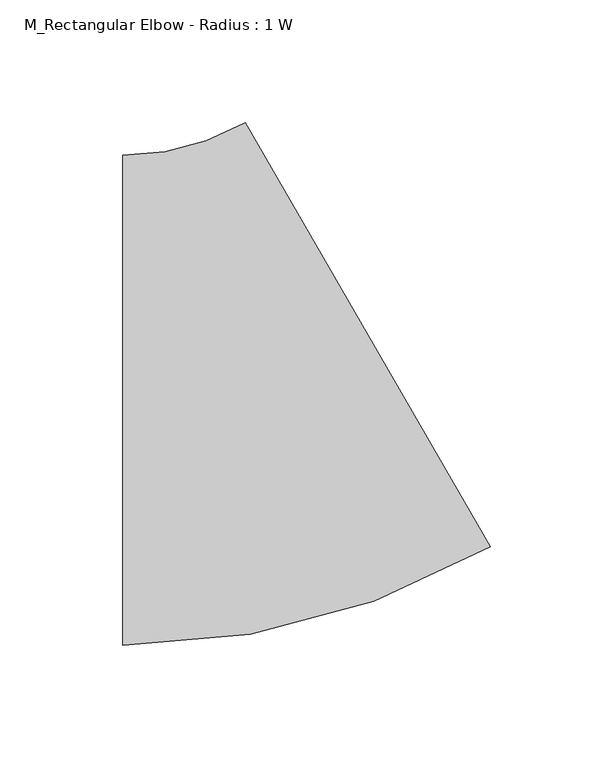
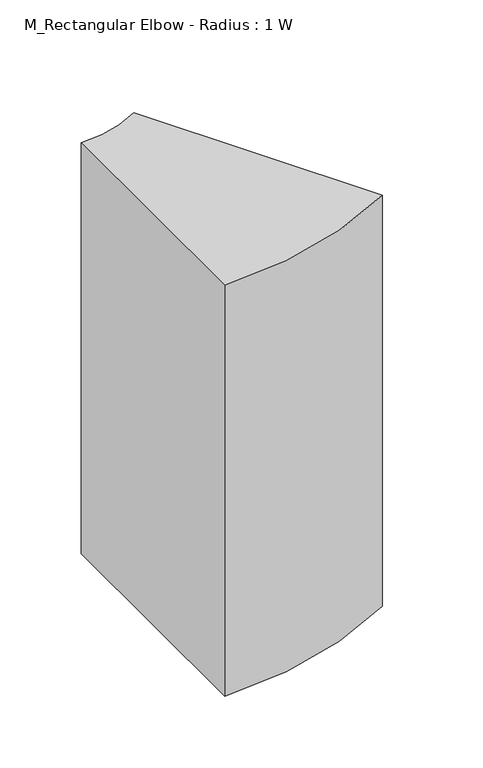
"""IFC4 building model written with IfcOpenShell, lengths in millimetres: duct fitting geometry, M_Rectangular Elbow - Radius : 1 W."""

from ifc_helpers import new_model, si_unit, point, frame, frame_2d, origin, place, context, project, spatial, polyline, circle_curve, trimmed, segment, composite_curve, outline, extrude, source, transform, mapped, element, save


def m_rectangular_elbow_radius_1_w_f31efba9(model_context):
    return source(origin(), model_context, "Body", "SweptSolid", [
        extrude(outline(composite_curve([segment(trimmed(circle_curve(frame_2d((-53.5898309, 200.0)), 300.0), [point((96.4101507, -59.8076317))], [point((-53.5898309, -100.0))], False, "CARTESIAN"), True, "CONTINUOUS"), segment(polyline([(-53.5898309, -100.0), (-53.5898309, 100.0)]), True, "CONTINUOUS"), segment(trimmed(circle_curve(frame_2d((-53.5898309, 200.0)), 100.0), [point((-53.5898309, 100.0))], [point((-3.589837, 113.3974561))], True, "CARTESIAN"), True, "CONTINUOUS"), segment(polyline([(-3.589837, 113.3974561), (96.4101507, -59.8076317)]), True, "CONTINUOUS")], self_intersect=False)), frame((0.0, 0.0, -175.0), z_axis=(0.0, 0.0, 1.0), x_axis=(1.0, 0.0, 0.0)), (0.0, 0.0, 1.0), 350.0),
    ])


if __name__ == "__main__":
    model = new_model("IFC4")
    model_context = context("Model", 3, world=origin())
    ifc_project = project(units=[si_unit("LENGTHUNIT", "METRE", prefix="MILLI")], contexts=[model_context])
    site = spatial("IfcSite", under=ifc_project)
    building = spatial("IfcBuilding", under=site)
    placement = place(None, origin())
    m_rectangular_elbow_radius_1_w_shape = m_rectangular_elbow_radius_1_w_f31efba9(model_context)
    element("IfcDuctFitting", 1, ObjectType="M_Rectangular Elbow - Radius : 1 W", at=placement, inside=building, context=model_context, shape_type="MappedRepresentation", body=[
        mapped(m_rectangular_elbow_radius_1_w_shape, transform((0.0, 0.0, 0.0), x_axis=(1.0, 0.0, 0.0), y_axis=(0.0, 1.0, 0.0), z_axis=(0.0, 0.0, 1.0))),
    ])
    save(model, "model.ifc")
